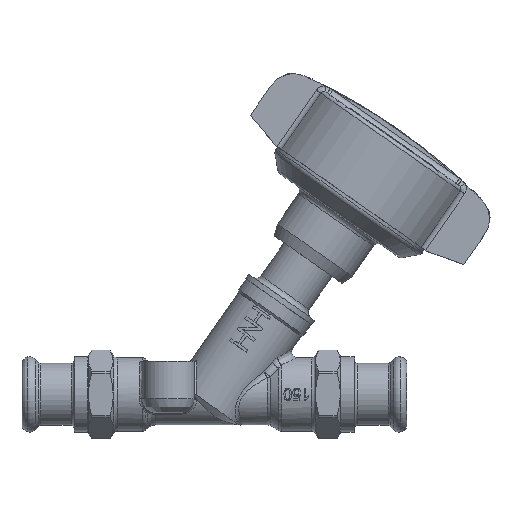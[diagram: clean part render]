
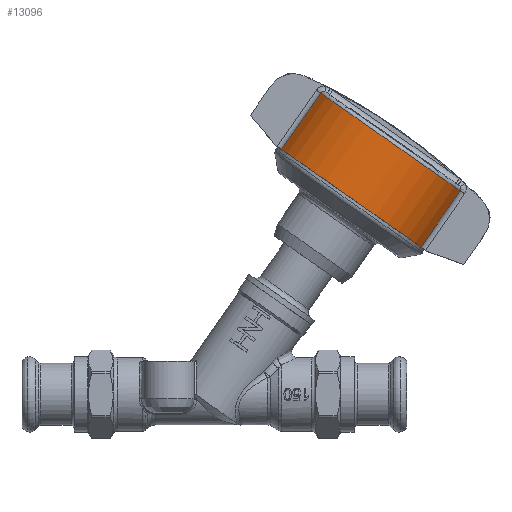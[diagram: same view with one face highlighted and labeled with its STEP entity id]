
A CAD part, top view. The second image highlights one B-rep face of the part: STEP entity #13096.
In plain terms, the highlighted cylindrical face has radius 31.925 mm (diameter 63.85 mm), a partial arc.
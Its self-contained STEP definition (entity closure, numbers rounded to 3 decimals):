
#11955=CARTESIAN_POINT('',(41.5,70.335,12.328));
#11956=VERTEX_POINT('',#11955);
#11964=CARTESIAN_POINT('',(27.906,50.921,12.328));
#11965=VERTEX_POINT('',#11964);
#11966=CARTESIAN_POINT('',(41.5,70.335,12.328));
#11967=DIRECTION('',(-0.574,-0.819,0.));
#11968=VECTOR('',#11967,23.7);
#11969=LINE('',#11966,#11968);
#11970=EDGE_CURVE('',#11956,#11965,#11969,.T.);
#12365=CARTESIAN_POINT('',(-6.746,104.118,12.328));
#12366=VERTEX_POINT('',#12365);
#12396=CARTESIAN_POINT('',(-20.34,84.704,12.328));
#12397=VERTEX_POINT('',#12396);
#12405=CARTESIAN_POINT('',(-20.34,84.704,12.328));
#12406=DIRECTION('',(0.574,0.819,0.0));
#12407=VECTOR('',#12406,23.7);
#12408=LINE('',#12405,#12407);
#12409=EDGE_CURVE('',#12397,#12366,#12408,.T.);
#13069=CARTESIAN_POINT('',(17.377,87.226,0.0));
#13070=DIRECTION('',(-0.574,-0.819,0.0));
#13071=DIRECTION('',(0.819,-0.574,0.0));
#13072=AXIS2_PLACEMENT_3D('',#13069,#13070,#13071);
#13073=CIRCLE('',#13072,31.925);
#13074=EDGE_CURVE('',#11956,#12366,#13073,.T.);
#13079=CARTESIAN_POINT('',(10.58,77.519,0.0));
#13080=DIRECTION('',(-0.574,-0.819,0.0));
#13081=DIRECTION('',(0.819,-0.574,0.0));
#13082=AXIS2_PLACEMENT_3D('',#13079,#13080,#13081);
#13083=CYLINDRICAL_SURFACE('',#13082,31.925);
#13084=ORIENTED_EDGE('',*,*,#11970,.F.);
#13085=ORIENTED_EDGE('',*,*,#13074,.T.);
#13086=ORIENTED_EDGE('',*,*,#12409,.F.);
#13087=CARTESIAN_POINT('',(3.783,67.813,0.0));
#13088=DIRECTION('',(-0.574,-0.819,0.0));
#13089=DIRECTION('',(0.819,-0.574,0.0));
#13090=AXIS2_PLACEMENT_3D('',#13087,#13088,#13089);
#13091=CIRCLE('',#13090,31.925);
#13092=EDGE_CURVE('',#11965,#12397,#13091,.T.);
#13093=ORIENTED_EDGE('',*,*,#13092,.F.);
#13094=EDGE_LOOP('',(#13084,#13085,#13086,#13093));
#13095=FACE_OUTER_BOUND('',#13094,.T.);
#13096=ADVANCED_FACE('',(#13095),#13083,.T.);
